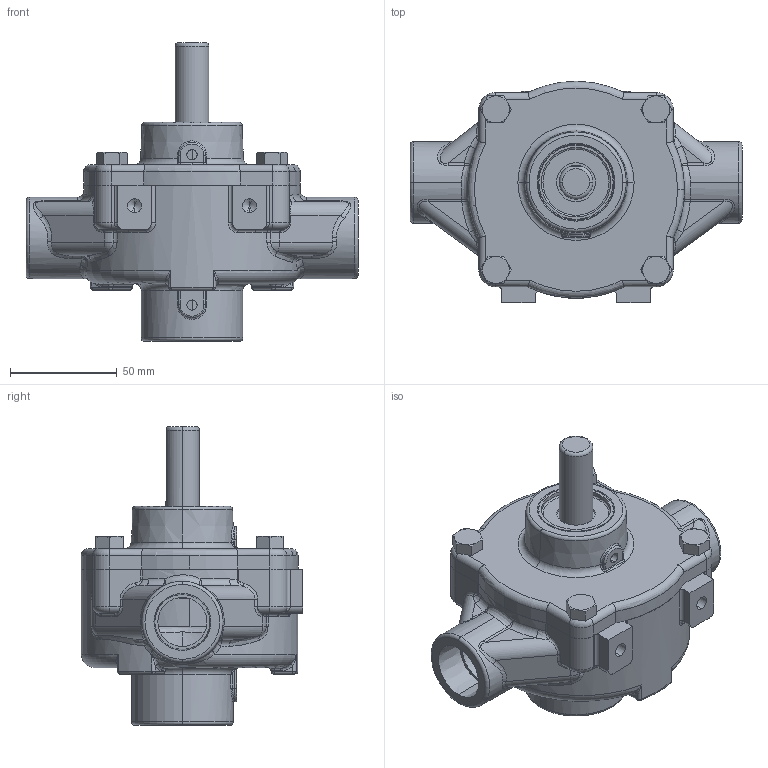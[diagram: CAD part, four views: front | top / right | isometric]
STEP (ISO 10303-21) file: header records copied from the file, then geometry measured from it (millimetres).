
FILE_DESCRIPTION (( 'STEP AP203' ), '1' );
FILE_NAME ('6500C-R.STEP', '2014-04-04T13:14:01', ( '' ), ( '' ), 'SwSTEP 2.0', 'SolidWorks 2012', '' );
FILE_SCHEMA (( 'CONFIG_CONTROL_DESIGN' ));
Length unit declared in the file: inch
Products named in the file (1): 6500C-R
Bounding box: 155.57 x 103.76 x 139.86 mm (x, y, z)
Volume: 612574.2 mm3; surface area: 67600 mm2
Topology: 1 solids, 34 shells, 986 faces, 2200 edges, 1222 vertices
Faces by surface type: cylinder 300, cone 260, plane 145, bspline 138, torus 117, sphere 26
Entity records: 34293 total; most frequent: CARTESIAN_POINT 13316, DIRECTION 4499, ORIENTED_EDGE 4328, EDGE_CURVE 2164, AXIS2_PLACEMENT_3D 1865, VERTEX_POINT 1218, CIRCLE 1016, EDGE_LOOP 1014
